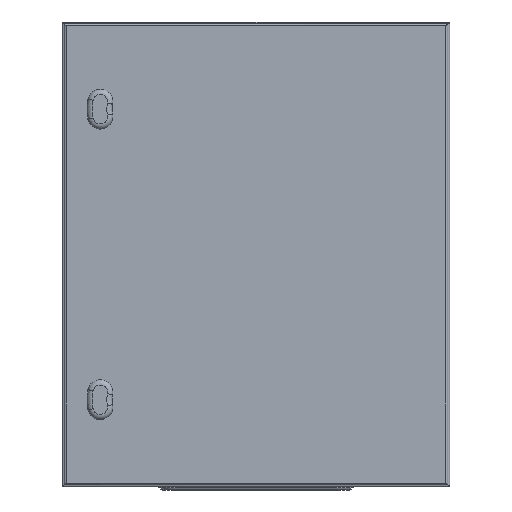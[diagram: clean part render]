
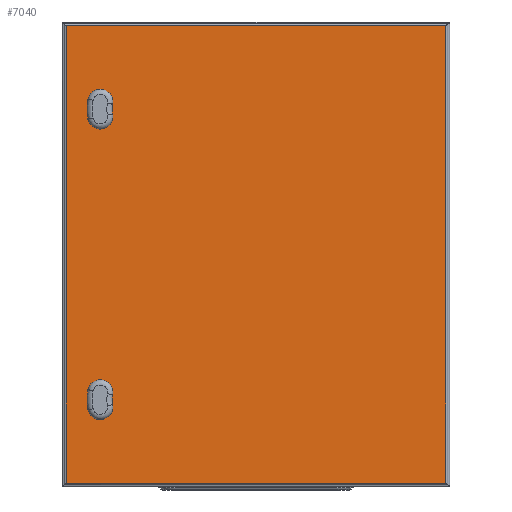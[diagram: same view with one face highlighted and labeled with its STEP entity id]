
A CAD part, front view. The second image highlights one B-rep face of the part: STEP entity #7040.
In plain terms, the highlighted planar face has unit normal (0, -1, 0).
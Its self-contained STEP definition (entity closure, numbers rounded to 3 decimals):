
#512=LINE('',#11383,#956);
#513=LINE('',#11386,#957);
#514=LINE('',#11388,#958);
#515=LINE('',#11390,#959);
#956=VECTOR('',#9106,1000.);
#957=VECTOR('',#9107,1000.);
#958=VECTOR('',#9108,1000.);
#959=VECTOR('',#9109,1000.);
#1810=ORIENTED_EDGE('',*,*,#3426,.F.);
#1811=ORIENTED_EDGE('',*,*,#3427,.T.);
#1812=ORIENTED_EDGE('',*,*,#3428,.T.);
#1813=ORIENTED_EDGE('',*,*,#3429,.T.);
#1814=ORIENTED_EDGE('',*,*,#3430,.F.);
#1815=ORIENTED_EDGE('',*,*,#3431,.T.);
#1816=ORIENTED_EDGE('',*,*,#3432,.T.);
#1817=ORIENTED_EDGE('',*,*,#3433,.T.);
#1818=ORIENTED_EDGE('',*,*,#3434,.F.);
#1819=ORIENTED_EDGE('',*,*,#3435,.F.);
#1820=ORIENTED_EDGE('',*,*,#3436,.T.);
#1821=ORIENTED_EDGE('',*,*,#3437,.T.);
#3426=EDGE_CURVE('',#4288,#4289,#4846,.T.);
#3427=EDGE_CURVE('',#4288,#4290,#4847,.T.);
#3428=EDGE_CURVE('',#4290,#4291,#4848,.T.);
#3429=EDGE_CURVE('',#4291,#4289,#4849,.T.);
#3430=EDGE_CURVE('',#4292,#4293,#4850,.T.);
#3431=EDGE_CURVE('',#4292,#4294,#4851,.T.);
#3432=EDGE_CURVE('',#4294,#4295,#4852,.T.);
#3433=EDGE_CURVE('',#4295,#4293,#4853,.T.);
#3434=EDGE_CURVE('',#4296,#4297,#512,.F.);
#3435=EDGE_CURVE('',#4298,#4296,#513,.T.);
#3436=EDGE_CURVE('',#4298,#4299,#514,.F.);
#3437=EDGE_CURVE('',#4299,#4297,#515,.T.);
#4288=VERTEX_POINT('',#11368);
#4289=VERTEX_POINT('',#11369);
#4290=VERTEX_POINT('',#11371);
#4291=VERTEX_POINT('',#11373);
#4292=VERTEX_POINT('',#11376);
#4293=VERTEX_POINT('',#11377);
#4294=VERTEX_POINT('',#11379);
#4295=VERTEX_POINT('',#11381);
#4296=VERTEX_POINT('',#11384);
#4297=VERTEX_POINT('',#11385);
#4298=VERTEX_POINT('',#11387);
#4299=VERTEX_POINT('',#11389);
#4846=CIRCLE('',#7694,34.3);
#4847=CIRCLE('',#7695,16.2);
#4848=CIRCLE('',#7696,60.7);
#4849=CIRCLE('',#7697,16.2);
#4850=CIRCLE('',#7698,34.3);
#4851=CIRCLE('',#7699,16.2);
#4852=CIRCLE('',#7700,60.7);
#4853=CIRCLE('',#7701,16.2);
#5401=EDGE_LOOP('',(#1810,#1811,#1812,#1813));
#5402=EDGE_LOOP('',(#1814,#1815,#1816,#1817));
#5403=EDGE_LOOP('',(#1818,#1819,#1820,#1821));
#6179=FACE_BOUND('',#5401,.T.);
#6180=FACE_BOUND('',#5402,.T.);
#6181=FACE_BOUND('',#5403,.T.);
#6788=PLANE('',#7693);
#7040=ADVANCED_FACE('',(#6179,#6180,#6181),#6788,.F.);
#7693=AXIS2_PLACEMENT_3D('',#11366,#9088,#9089);
#7694=AXIS2_PLACEMENT_3D('',#11367,#9090,#9091);
#7695=AXIS2_PLACEMENT_3D('',#11370,#9092,#9093);
#7696=AXIS2_PLACEMENT_3D('',#11372,#9094,#9095);
#7697=AXIS2_PLACEMENT_3D('',#11374,#9096,#9097);
#7698=AXIS2_PLACEMENT_3D('',#11375,#9098,#9099);
#7699=AXIS2_PLACEMENT_3D('',#11378,#9100,#9101);
#7700=AXIS2_PLACEMENT_3D('',#11380,#9102,#9103);
#7701=AXIS2_PLACEMENT_3D('',#11382,#9104,#9105);
#9088=DIRECTION('',(0.,1.,0.));
#9089=DIRECTION('',(0.,0.,1.));
#9090=DIRECTION('',(0.,1.,0.));
#9091=DIRECTION('',(1.,0.,0.));
#9092=DIRECTION('',(0.,1.,0.));
#9093=DIRECTION('',(1.,0.,0.));
#9094=DIRECTION('',(0.,1.,0.));
#9095=DIRECTION('',(1.,0.,0.));
#9096=DIRECTION('',(0.,1.,0.));
#9097=DIRECTION('',(1.,0.,0.));
#9098=DIRECTION('',(0.,1.,0.));
#9099=DIRECTION('',(1.,0.,0.));
#9100=DIRECTION('',(0.,1.,0.));
#9101=DIRECTION('',(1.,0.,0.));
#9102=DIRECTION('',(0.,1.,0.));
#9103=DIRECTION('',(1.,0.,0.));
#9104=DIRECTION('',(0.,1.,0.));
#9105=DIRECTION('',(1.,0.,0.));
#9106=DIRECTION('',(0.,0.,-1.));
#9107=DIRECTION('',(-1.,0.,0.));
#9108=DIRECTION('',(0.,0.,-1.));
#9109=DIRECTION('',(-1.,0.,0.));
#11366=CARTESIAN_POINT('',(0.,-16.5,0.));
#11367=CARTESIAN_POINT('',(-151.402,-16.5,-187.5));
#11368=CARTESIAN_POINT('',(-185.089,-16.5,-193.952));
#11369=CARTESIAN_POINT('',(-185.089,-16.5,-181.048));
#11370=CARTESIAN_POINT('',(-201.,-16.5,-197.));
#11371=CARTESIAN_POINT('',(-216.827,-16.5,-200.458));
#11372=CARTESIAN_POINT('',(-157.526,-16.5,-187.5));
#11373=CARTESIAN_POINT('',(-216.827,-16.5,-174.542));
#11374=CARTESIAN_POINT('',(-201.,-16.5,-178.));
#11375=CARTESIAN_POINT('',(-151.402,-16.5,187.5));
#11376=CARTESIAN_POINT('',(-185.089,-16.5,181.048));
#11377=CARTESIAN_POINT('',(-185.089,-16.5,193.952));
#11378=CARTESIAN_POINT('',(-201.,-16.5,178.));
#11379=CARTESIAN_POINT('',(-216.827,-16.5,174.542));
#11380=CARTESIAN_POINT('',(-157.526,-16.5,187.5));
#11381=CARTESIAN_POINT('',(-216.827,-16.5,200.458));
#11382=CARTESIAN_POINT('',(-201.,-16.5,197.));
#11383=CARTESIAN_POINT('',(-245.,-16.5,300.));
#11384=CARTESIAN_POINT('',(-245.,-16.5,-295.));
#11385=CARTESIAN_POINT('',(-245.,-16.5,295.));
#11386=CARTESIAN_POINT('',(250.,-16.5,-295.));
#11387=CARTESIAN_POINT('',(245.,-16.5,-295.));
#11388=CARTESIAN_POINT('',(245.,-16.5,300.));
#11389=CARTESIAN_POINT('',(245.,-16.5,295.));
#11390=CARTESIAN_POINT('',(250.,-16.5,295.));
